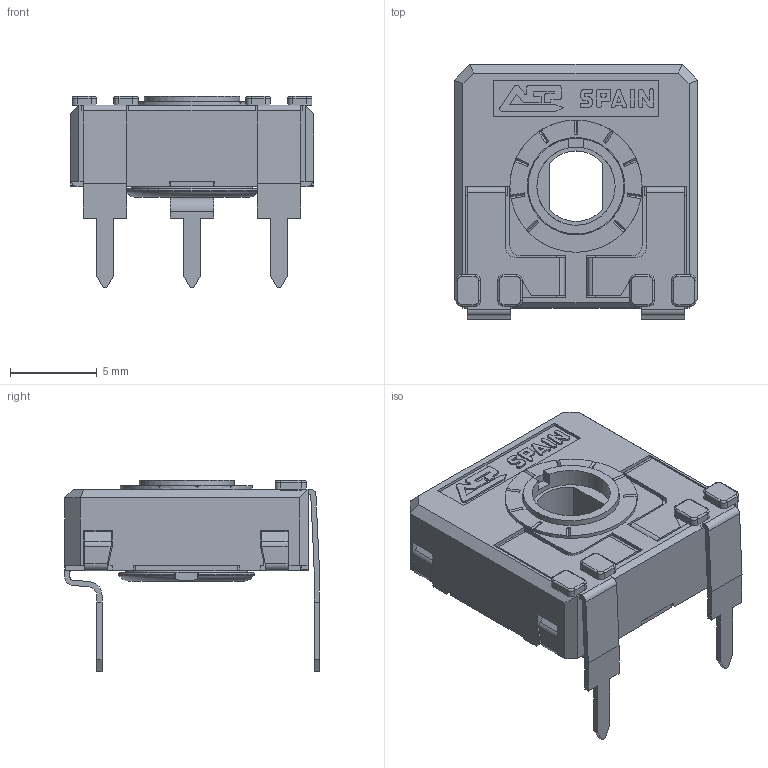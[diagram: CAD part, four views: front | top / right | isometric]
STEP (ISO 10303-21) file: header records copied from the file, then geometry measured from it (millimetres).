
FILE_DESCRIPTION(/* description */ (''),/* implementation_level */ '2;1');
FILE_NAME(/* name */ '\\SERVERACP\intercambio\Ignacio Santa Cecilia\Nueva WEB 2025\CA14 - CE14\CA14ZV12,5.stp',/* time_stamp */ '2025-07-01T10:36:06+02:00',/* author */ ('CEM'),/* organization */ (''),/* preprocessor_version */ 'ST-DEVELOPER v17',/* originating_system */ 'Autodesk Inventor 2018',/* authorisation */ '');
FILE_SCHEMA (('AUTOMOTIVE_DESIGN { 1 0 10303 214 3 1 1 }'));
Length unit declared in the file: millimetre
Products named in the file (1): CARCASA CA14 PGA
Bounding box: 14 x 14.65 x 11 mm (x, y, z)
Volume: 536.5 mm3; surface area: 1493.9 mm2
Topology: 1 solids, 1 shells, 682 faces, 1931 edges, 1245 vertices
Faces by surface type: plane 502, cylinder 143, torus 23, bspline 8, cone 6
Full cylindrical faces by diameter (mm): 4.5 x1, 5.5 x1, 5.6 x1, 5.752 x1, 6.8 x1, 7.6 x1
Entity records: 22326 total; most frequent: CARTESIAN_POINT 4156, ORIENTED_EDGE 3862, DIRECTION 3607, EDGE_CURVE 1931, LINE 1515, VECTOR 1515, VERTEX_POINT 1245, AXIS2_PLACEMENT_3D 1046
